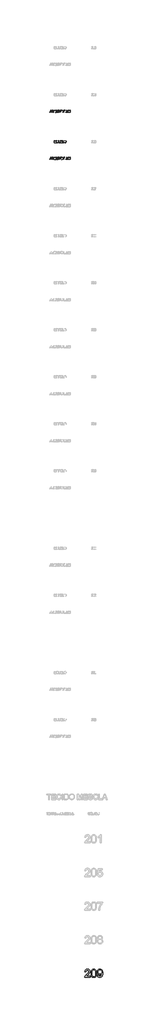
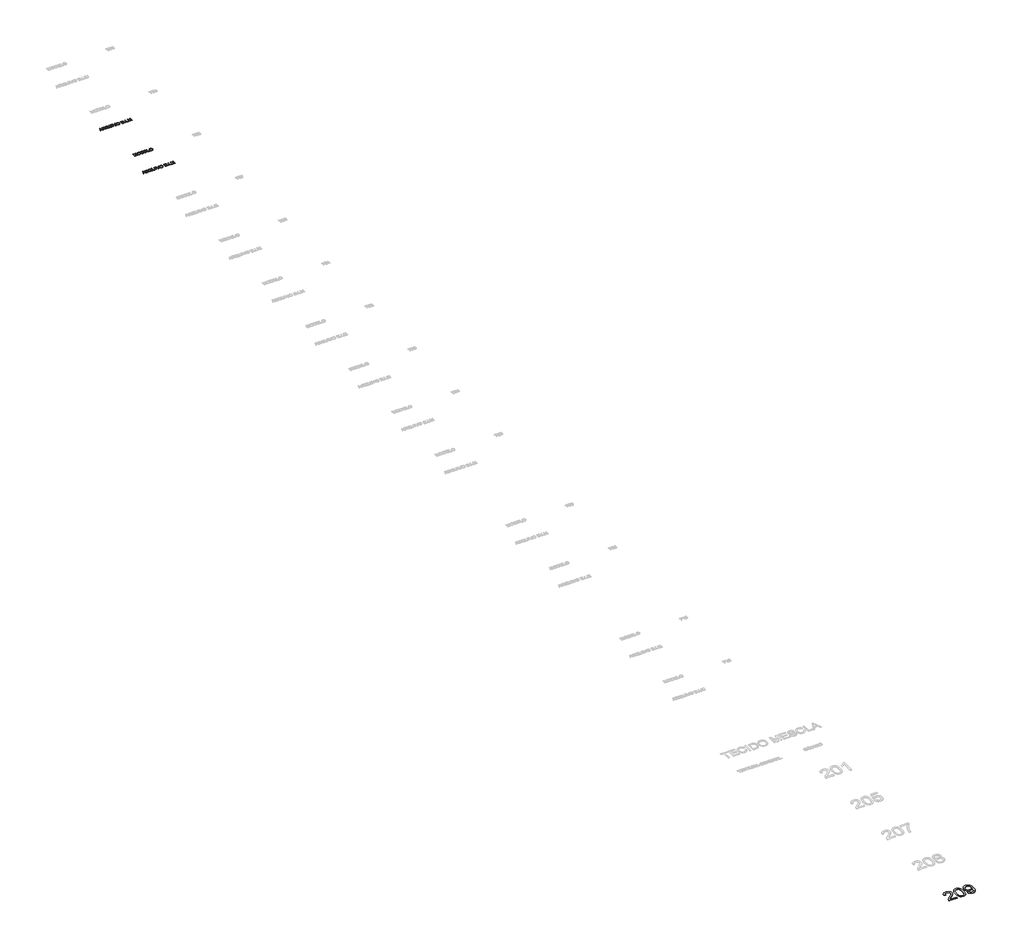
# One storey, part 14 of 19: 4 proxies.
"""IFC4 building model written with IfcOpenShell, lengths in millimetres."""

from ifc_helpers import new_model, si_unit, origin, origin_with_axes, place, context, project, spatial, polyline, outline, extrude, element, save

model = new_model("IFC4")

# Units and contexts
model_context = context("Model", 3, world=origin())
ifc_project = project(units=[si_unit("LENGTHUNIT", "METRE", prefix="MILLI")], contexts=[model_context])

# Site, building, storey
site = spatial("IfcSite", under=ifc_project)
building = spatial("IfcBuilding", under=site)
storey = spatial("IfcBuildingStorey", under=building, Name="Marelli - Linha ACTIVE - Planta Baixa", Elevation=0.0)

# Proxies
placement = place(None, origin())
element("IfcBuildingElementProxy", 1, Name="1200mm Arial", ObjectType="1200mm Arial", at=placement, inside=storey, context=model_context, shape_type="SweptSolid", body=[
    extrude(outline(polyline([(365.0998072, -128838.133975), (365.0998072, -128988.8184403), (-425.9936352, -128988.8184403), (-422.6826972, -128935.7698566), (-409.8068274, -128884.9285648), (-393.3808963, -128844.029284), (-372.6507459, -128803.7370085), (-347.6163761, -128764.0517383), (-318.277787, -128724.9734733), (-282.869145, -128684.9755034), (-239.6246164, -128642.5311182), (-129.6278999, -128550.303102), (-40.1957869, -128473.3605827), (32.975942, -128405.8726307), (89.8872866, -128347.839246), (130.5382471, -128299.2604285), (158.9939194, -128255.7032003), (179.3193997, -128212.7345832), (191.5146878, -128170.3545774), (195.5797839, -128128.5631827), (191.7446141, -128089.2457945), (180.2391047, -128053.1105855), (161.0632557, -128020.1575558), (134.2170671, -127990.3867054), (101.1904609, -127965.7294146), (63.4733594, -127948.1170641), (21.0657624, -127937.5496538), (-26.03233, -127934.0271837), (-75.6504141, -127937.4668804), (-120.0261798, -127947.7859703), (-159.159627, -127964.9844536), (-193.0507558, -127989.0623302), (-220.4671615, -128019.2102597), (-240.1764394, -128054.6189017), (-252.1785895, -128095.2882563), (-256.4736118, -128141.2183234), (-407.158077, -128122.3827652), (-394.1994338, -128044.5941173), (-383.7400888, -128009.3832119), (-370.6273949, -127976.6279187), (-354.8613522, -127946.3282379), (-336.4419605, -127918.4841694), (-315.36922, -127893.0957132), (-291.6431306, -127870.1628693), (-265.5212096, -127849.8143965), (-237.2609746, -127832.1790533), (-206.8624255, -127817.2568399), (-174.3255623, -127805.0477562), (-102.8368936, -127788.7689779), (-22.7949685, -127783.3427185), (57.9643265, -127789.3759832), (95.0123427, -127796.9175641), (129.8392713, -127807.4757774), (162.4451124, -127821.050623), (192.8298659, -127837.642101), (220.9935319, -127857.2502113), (246.9361104, -127879.874954), (270.2161429, -127904.7345798), (290.3921711, -127931.0473395), (307.4641949, -127958.8132331), (321.4322144, -127988.0322606), (332.2962296, -128018.7044219), (340.0562404, -128050.8297172), (344.7122469, -128084.4081463), (346.2642491, -128119.4397093), (344.590386, -128155.6301005), (339.5687968, -128191.5077921), (331.1994814, -128227.072784), (319.4824398, -128262.3250762), (303.8750462, -128297.880871), (283.8346745, -128334.3563708), (230.454997, -128410.0664855), (193.6208122, -128452.0510182), (145.3638915, -128500.4550917), (14.5818422, -128616.5218611), (-158.7641539, -128761.4673672), (-196.3616938, -128799.6903065), (-226.7487466, -128838.133975), (365.0998072, -128838.133975)])), origin_with_axes(), (0.0, 0.0, 1.0), 10.0),
    extrude(outline(polyline([(515.7842725, -128395.792664), (518.5525845, -128294.4319773), (526.8575205, -128202.8385576), (540.6990806, -128121.0124048), (560.0772647, -128048.953519), (584.9092994, -127986.073289), (615.1124112, -127931.7831035), (650.6866001, -127886.0829627), (691.6318662, -127848.9728664), (738.0861651, -127820.2596767), (790.1874527, -127799.7502555), (847.9357289, -127787.4446027), (911.3309937, -127783.3427185), (958.971712, -127785.7707396), (1004.1844093, -127793.0548031), (1046.9690853, -127805.194909), (1087.3257402, -127822.1910572), (1124.2794866, -127843.7581391), (1156.8554373, -127869.6110463), (1185.0535922, -127899.7497788), (1208.8739514, -127934.1743365), (1229.5121313, -127972.7467637), (1248.1637485, -128015.3291046), (1279.5072944, -128112.5235278), (1291.4818534, -128169.6831928), (1300.0351098, -128235.9479371), (1305.1670636, -128311.3177609), (1306.8777149, -128395.792664), (1304.136994, -128496.5095573), (1295.9148314, -128587.6431245), (1282.2112271, -128669.1933658), (1263.0261811, -128741.1602811), (1238.3872844, -128804.0681023), (1208.3221284, -128858.4410612), (1172.8307129, -128904.2791578), (1131.913038, -128941.5823921), (1085.4035567, -128970.4887199), (1033.1367223, -128991.1360968), (975.1125346, -129003.524523), (911.3309937, -129007.6539984), (868.6566822, -129005.8605737), (828.3368156, -129000.4802995), (790.3713937, -128991.5131759), (754.7604165, -128978.9592028), (721.5038842, -128962.8183803), (690.6017966, -128943.0907083), (662.0541537, -128919.7761868), (635.8609557, -128892.8748159), (607.7179831, -128850.2786794), (583.3274068, -128802.0999336), (562.6892268, -128748.3385785), (545.8034433, -128688.9946142), (532.670056, -128624.0680406), (523.2890652, -128553.5588577), (517.6604706, -128477.4670655), (515.7842725, -128395.792664)]), holes=[polyline([(666.4687377, -128395.4983584), (670.8833216, -128526.4919399), (684.1270735, -128632.5247279), (694.0598873, -128676.1808245), (706.1999932, -128713.5967226), (720.547391, -128744.7724225), (737.1020808, -128769.7079239), (774.4788915, -128807.884878), (815.9759805, -128835.1541309), (861.5933479, -128851.5156826), (911.3309937, -128856.9695332), (961.0686394, -128851.4972885), (1006.6860068, -128835.0805545), (1048.1830959, -128807.7193311), (1085.5599066, -128769.4136183), (1102.1145964, -128744.418336), (1116.4619942, -128713.2104465), (1128.6021, -128675.7899498), (1138.5349139, -128632.1568459), (1151.7786657, -128526.2528166), (1156.1932497, -128395.4983584), (1151.9258185, -128267.9720648), (1139.1235251, -128163.8062779), (1129.521805, -128120.4835744), (1117.7863694, -128083.0009976), (1103.9172181, -128051.3585475), (1087.9143514, -128025.5562241), (1051.16294, -127985.5122689), (1009.1876044, -127956.9094438), (961.9883444, -127939.7477487), (909.5651601, -127934.0271837), (860.0850317, -127939.067167), (815.2402165, -127954.187117), (775.0307145, -127979.3870337), (739.4565255, -128014.666917), (722.3500128, -128043.2145599), (707.5243683, -128077.2068562), (694.9795923, -128116.6438061), (684.7156846, -128161.5254095), (671.0304744, -128267.6225769), (666.4687377, -128395.4983584)])]), origin_with_axes(), (0.0, 0.0, 1.0), 10.0),
    extrude(outline(polyline([(1457.5621801, -128687.4495098), (1608.2466453, -128668.6139517), (1619.0991642, -128714.7923391), (1633.998385, -128754.1465155), (1652.9443077, -128786.676481), (1675.9369324, -128812.3822354), (1702.7187417, -128831.8891782), (1733.0322181, -128845.8227087), (1766.8773617, -128854.1828271), (1804.2541724, -128856.9695332), (1836.9312906, -128855.1761085), (1868.1552749, -128849.7958343), (1897.9261254, -128840.8287107), (1926.243842, -128828.2747376), (1952.1059462, -128812.7225262), (1974.5099597, -128794.7606878), (1993.4558825, -128774.3892223), (2008.9437145, -128751.6081298), (2035.0265479, -128694.8807261), (2058.2399018, -128620.6421395), (2074.5738624, -128535.4406694), (2080.018516, -128445.8246154), (2079.1355992, -128416.3940558), (2055.0485255, -128449.9081055), (2026.933144, -128480.1112173), (1994.7894547, -128507.0033912), (1958.6174575, -128530.5846271), (1919.6495572, -128549.7696731), (1879.1181584, -128563.4732774), (1837.0232611, -128571.69544), (1793.3648653, -128574.4361609), (1756.8548766, -128572.7622978), (1721.7842261, -128567.7407086), (1688.152914, -128559.3713932), (1655.9609401, -128547.6543517), (1625.2083046, -128532.5895839), (1595.8950073, -128514.1770901), (1568.0210484, -128492.4168701), (1541.5864278, -128467.3089239), (1517.4786608, -128439.4648554), (1496.5852627, -128409.4962684), (1478.9062336, -128377.4031628), (1464.4415734, -128343.1855387), (1453.1912822, -128306.8433961), (1445.1553598, -128268.376735), (1440.3338064, -128227.7855554), (1438.726622, -128185.0698572), (1440.4119813, -128140.9240178), (1445.4680595, -128098.9854703), (1453.8948565, -128059.2542149), (1465.6923722, -128021.7302513), (1480.8606067, -127986.4135798), (1499.39956, -127953.3042002), (1521.3092321, -127922.4021126), (1546.5896229, -127893.707317), (1574.4083996, -127867.8406142), (1603.9332289, -127845.4228052), (1635.1641111, -127826.4538898), (1668.101046, -127810.9338681), (1702.7440336, -127798.8627401), (1739.093074, -127790.2405059), (1777.1481671, -127785.0671653), (1816.909313, -127783.3427185), (1874.3632836, -127787.2790558), (1929.2972625, -127799.0880679), (1981.7112498, -127818.7697546), (2031.6052454, -127846.324116), (2077.3145833, -127881.162541), (2117.1745975, -127922.6964182), (2151.1852879, -127970.9257478), (2179.3466546, -128025.8505297), (2201.4287714, -128090.634549), (2217.201712, -128168.441591), (2226.6654763, -128259.2716556), (2229.8200644, -128363.1247429), (2226.6746733, -128472.1925574), (2217.2385002, -128569.5433304), (2201.5115449, -128655.1770618), (2179.4938074, -128729.0937517), (2151.2680614, -128793.0960218), (2116.9170801, -128848.9864939), (2076.4408635, -128896.765168), (2029.8394118, -128936.4320442), (1978.0508239, -128967.5916491), (1922.013199, -128989.8485099), (1861.7265371, -129003.2026263), (1797.1908381, -129007.6539984), (1729.518945, -129002.4024829), (1668.3585633, -128986.6479365), (1613.709693, -128960.3903591), (1565.5723339, -128923.6297507), (1525.1604967, -128877.3593928), (1493.688192, -128822.5725666), (1471.1554198, -128759.2692723), (1457.5621801, -128687.4495098)]), holes=[polyline([(2079.1355992, -128181.5381901), (2075.0705031, -128127.5331132), (2062.875215, -128079.4141482), (2042.5497347, -128037.1812951), (2014.0940624, -128000.834554), (1978.9061496, -127971.6063295), (1938.3839478, -127950.7290263), (1892.5274571, -127938.2026443), (1841.3366775, -127934.0271837), (1788.508823, -127938.5245411), (1740.6841636, -127952.0166133), (1697.8626994, -127974.5034002), (1660.0444303, -128005.984902), (1629.1423427, -128044.6217085), (1607.069423, -128088.5744099), (1593.8256711, -128137.8430061), (1589.4110872, -128192.4274971), (1593.5865478, -128241.3833936), (1606.1129298, -128285.5384301), (1626.990233, -128324.8926065), (1656.2184575, -128359.4459229), (1692.5835927, -128387.5796985), (1734.8716281, -128407.6752525), (1783.0825635, -128419.7325849), (1837.2163991, -128423.7516957), (1887.6990059, -128419.7325849), (1933.4911173, -128407.6752525), (1974.5927332, -128387.5796985), (2011.0038537, -128359.4459229), (2040.8114923, -128324.2120248), (2062.1026628, -128282.8161033), (2074.8773651, -128235.2581584), (2079.1355992, -128181.5381901)])]), origin_with_axes(), (0.0, 0.0, 1.0), 10.0),
])
element("IfcBuildingElementProxy", 2, Name="300mm Arial", ObjectType="300mm Arial", at=placement, inside=storey, context=model_context, shape_type="SweptSolid", body=[
    extrude(outline(polyline([(-5609.419598, -7280.5663201), (-5489.1221856, -6979.1973896), (-5457.0428756, -6979.1973896), (-5336.7454632, -7280.5663201), (-5376.550295, -7280.5663201), (-5411.0576262, -7186.3885293), (-5535.1810114, -7186.3885293), (-5569.6147661, -7280.5663201), (-5609.419598, -7280.5663201)]), holes=[polyline([(-5521.3486483, -7148.717413), (-5424.8164128, -7148.717413), (-5451.9661041, -7074.6259792), (-5473.0825306, -7016.8685059), (-5491.8445123, -7068.1512561), (-5521.3486483, -7148.717413)])]), origin_with_axes(), (0.0, 0.0, 1.0), 10.0),
    extrude(outline(polyline([(-5296.4991729, -7280.5663201), (-5296.4991729, -6979.1973896), (-5166.6368286, -6979.1973896), (-5131.7340243, -6981.2299376), (-5106.3409696, -6987.3275817), (-5087.7813229, -6998.5847708), (-5073.3787428, -7016.0959537), (-5064.1357077, -7037.8101885), (-5061.054696, -7061.6765329), (-5066.1590587, -7091.3646099), (-5081.4721467, -7115.9759154), (-5093.0719259, -7126.0052983), (-5107.4538126, -7134.0205273), (-5144.5639089, -7144.0085235), (-5123.1531768, -7160.1217548), (-5092.6189712, -7198.8965171), (-5042.3662906, -7280.5663201), (-5086.144248, -7280.5663201), (-5125.3604687, -7218.0999573), (-5153.6873824, -7176.750021), (-5173.5897983, -7157.2154871), (-5191.5056515, -7150.0417882), (-5213.357842, -7148.717413), (-5258.8280566, -7148.717413), (-5258.8280566, -7280.5663201), (-5296.4991729, -7280.5663201)]), holes=[polyline([(-5258.8280566, -7111.0462967), (-5174.5095033, -7111.0462967), (-5150.293671, -7109.7127245), (-5131.5040981, -7105.7120078), (-5117.3590353, -7098.7774322), (-5107.0767336, -7088.6422832), (-5100.8135426, -7076.3826157), (-5098.7258123, -7063.0744845), (-5102.7081349, -7044.6987789), (-5114.6551027, -7029.8915286), (-5135.2105092, -7020.1242616), (-5165.0181478, -7016.8685059), (-5258.8280566, -7016.8685059), (-5258.8280566, -7111.0462967)])]), origin_with_axes(), (0.0, 0.0, 1.0), 10.0),
    extrude(outline(polyline([(-4768.7356626, -7244.4403081), (-4744.4002686, -7263.036743), (-4722.0146492, -7275.8574305), (-4732.1681923, -7303.4485802), (-4763.2358268, -7289.0460001), (-4794.1930967, -7268.205485), (-4829.0499157, -7281.0077785), (-4867.4016137, -7285.2752096), (-4905.9372527, -7280.3547879), (-4940.7572836, -7265.5935229), (-4969.9211287, -7241.9203165), (-4991.4882107, -7210.2640708), (-5004.814736, -7172.3630282), (-5009.2569111, -7129.9554312), (-5004.823933, -7087.511046), (-4991.5249989, -7049.0581805), (-4970.0406904, -7016.9512794), (-4941.0515892, -6993.5447874), (-4906.360317, -6979.2525719), (-4867.7694957, -6974.4885001), (-4828.8751718, -6979.3629365), (-4794.0091557, -6993.9862458), (-4765.0660397, -7017.3835407), (-4743.9404161, -7048.5799339), (-4731.0277581, -7085.9199564), (-4726.7235388, -7127.7481393), (-4729.3355009, -7162.5313819), (-4737.1713874, -7193.5990164), (-4750.2863806, -7220.9142546), (-4768.7356626, -7244.4403081)]), holes=[polyline([(-4857.0273415, -7194.3347804), (-4825.3527017, -7206.3093393), (-4799.784903, -7222.9559996), (-4784.3016695, -7205.4816049), (-4773.2422171, -7184.1076609), (-4766.6065456, -7158.8341679), (-4764.3946551, -7129.6611256), (-4767.521652, -7096.5057608), (-4776.9026429, -7067.8201623), (-4792.3077015, -7044.3308969), (-4813.5069014, -7026.7645316), (-4839.065503, -7015.8108452), (-4867.5487665, -7012.1596164), (-4889.033075, -7014.0059242), (-4908.6043972, -7019.5448474), (-4926.2627329, -7028.7763863), (-4942.0080823, -7041.7005406), (-4954.9483315, -7058.2897193), (-4964.1913666, -7078.5163313), (-4969.7371877, -7102.3803764), (-4971.5857948, -7129.8818548), (-4969.7578811, -7156.6659634), (-4964.2741401, -7180.1437324), (-4955.1345718, -7200.3151621), (-4942.3391761, -7217.1802523), (-4926.7018921, -7230.4906827), (-4909.0366585, -7239.9981331), (-4889.3434755, -7245.7026032), (-4867.6223429, -7247.6040933), (-4846.7082515, -7245.6727128), (-4827.081747, -7239.8785714), (-4846.3771577, -7229.853787), (-4866.7394261, -7223.1767288), (-4857.0273415, -7194.3347804)])]), origin_with_axes(), (0.0, 0.0, 1.0), 10.0),
    extrude(outline(polyline([(-4472.4435037, -6979.1973896), (-4434.7723874, -6979.1973896), (-4434.7723874, -7153.0584205), (-4437.3291673, -7193.7737604), (-4444.9995069, -7225.1265034), (-4459.3285106, -7249.3147446), (-4481.8612828, -7268.5365788), (-4512.6530058, -7281.0905519), (-4551.7588619, -7285.2752096), (-4590.0093923, -7281.6331779), (-4620.5895832, -7270.7070826), (-4643.5086315, -7252.8740029), (-4658.7757343, -7228.5110178), (-4667.3565818, -7195.8338995), (-4670.2168643, -7153.0584205), (-4670.2168643, -6979.1973896), (-4632.545748, -6979.1973896), (-4632.545748, -7151.7340454), (-4630.6879439, -7185.588386), (-4625.1145317, -7209.1604248), (-4615.0161709, -7225.4851883), (-4599.5835212, -7237.597703), (-4579.4603761, -7245.1024957), (-4555.290529, -7247.6040933), (-4516.9756192, -7242.6560805), (-4502.6328199, -7236.4710644), (-4491.499791, -7227.812042), (-4483.1626653, -7215.6351479), (-4477.2075755, -7198.8965171), (-4472.4435037, -7151.7340454), (-4472.4435037, -6979.1973896)])), origin_with_axes(), (0.0, 0.0, 1.0), 10.0),
    extrude(outline(polyline([(-4364.1390443, -7280.5663201), (-4364.1390443, -6979.1973896), (-4326.467928, -6979.1973896), (-4326.467928, -7280.5663201), (-4364.1390443, -7280.5663201)])), origin_with_axes(), (0.0, 0.0, 1.0), 10.0),
    extrude(outline(polyline([(-4162.0982526, -7280.5663201), (-4282.027783, -6979.1973896), (-4241.7079163, -6979.1973896), (-4161.436065, -7196.3213432), (-4145.1756808, -7245.2496485), (-4129.1360258, -7196.3213432), (-4048.6434453, -6979.1973896), (-4008.3235786, -6979.1973896), (-4123.1763375, -7280.5663201), (-4162.0982526, -7280.5663201)])), origin_with_axes(), (0.0, 0.0, 1.0), 10.0),
    extrude(outline(polyline([(-3987.4278813, -7133.8549804), (-3984.9170866, -7098.5061192), (-3977.3847028, -7067.213157), (-3964.8307297, -7039.9760937), (-3947.2551674, -7016.7949295), (-3925.711078, -6998.2858666), (-3901.2515239, -6985.0651074), (-3873.8765049, -6977.1326519), (-3843.5860211, -6974.4885001), (-3804.0571008, -6979.454907), (-3768.6116705, -6994.3541278), (-3739.1811109, -7018.1376988), (-3717.6968024, -7049.7571563), (-3704.5634152, -7087.68579), (-3700.1856194, -7130.3968896), (-3704.7933414, -7173.6782064), (-3718.6165074, -7212.140269), (-3740.8917622, -7243.8149087), (-3770.8557507, -7266.733957), (-3805.9976783, -7280.6398965), (-3843.8067503, -7285.2752096), (-3883.942676, -7280.1524528), (-3919.5904413, -7264.7841825), (-3948.9474246, -7240.5591531), (-3970.2110039, -7208.8661192), (-3983.1236619, -7172.3998164), (-3987.4278813, -7133.8549804)]), holes=[polyline([(-3949.7567649, -7134.2228624), (-3947.873669, -7159.1974513), (-3942.2243811, -7181.3669401), (-3932.8089013, -7200.7313286), (-3919.6272295, -7217.2906169), (-3903.6036694, -7230.5527628), (-3885.6625243, -7240.0257242), (-3865.8037944, -7245.709501), (-3844.0274795, -7247.6040933), (-3821.8786842, -7245.6911069), (-3801.7854294, -7239.9521478), (-3783.7477154, -7230.3872159), (-3767.7655419, -7216.9963113), (-3754.6804392, -7200.0875351), (-3745.3339373, -7179.9689885), (-3739.7260361, -7156.6406715), (-3737.8567357, -7130.102584), (-3741.0573091, -7096.7540812), (-3750.6590292, -7067.9305269), (-3766.4135756, -7044.358488), (-3788.0726281, -7026.7645316), (-3814.2014468, -7015.8108452), (-3843.3652919, -7012.1596164), (-3864.3851494, -7013.9185522), (-3883.8874937, -7019.1953595), (-3901.8723248, -7027.9900385), (-3918.3396426, -7040.302589), (-3932.0846336, -7056.7262208), (-3941.9024844, -7077.8541437), (-3947.7931948, -7103.6863575), (-3949.7567649, -7134.2228624)])]), origin_with_axes(), (0.0, 0.0, 1.0), 10.0),
    extrude(outline(polyline([(-3530.665596, -7280.5663201), (-3530.665596, -6979.1973896), (-3415.6656844, -6979.1973896), (-3384.0370298, -6981.4138786), (-3359.3429509, -6988.0633457), (-3340.4154222, -6999.3113377), (-3326.0864185, -7015.3234015), (-3317.0641126, -7034.1589597), (-3314.0566773, -7053.8774346), (-3316.585866, -7072.0232141), (-3324.1734321, -7089.0837416), (-3336.874558, -7104.0105535), (-3354.7444259, -7115.7551862), (-3333.3980732, -7126.9020107), (-3317.6251326, -7143.8613707), (-3307.8854568, -7165.5112261), (-3304.6388982, -7190.7295368), (-3306.8553872, -7211.7447958), (-3313.5048543, -7231.2333445), (-3323.4284711, -7247.8064284), (-3335.4674094, -7260.0752929), (-3350.2102804, -7268.9596431), (-3368.2456952, -7275.3791839), (-3416.5486011, -7280.5663201), (-3530.665596, -7280.5663201)]), holes=[polyline([(-3492.9944797, -7101.6285176), (-3424.2005466, -7101.6285176), (-3384.0278328, -7098.3911561), (-3369.9655435, -7092.8085468), (-3359.8579857, -7084.4484284), (-3353.7603416, -7073.4395597), (-3351.7277936, -7059.9106994), (-3353.6223859, -7046.7773121), (-3359.3061627, -7035.3361821), (-3368.5216067, -7026.4058467), (-3381.0112004, -7020.8048433), (-3429.424471, -7016.8685059), (-3492.9944797, -7016.8685059), (-3492.9944797, -7101.6285176)]), polyline([(-3492.9944797, -7242.8952038), (-3415.7392607, -7242.8952038), (-3387.7802291, -7241.4236758), (-3364.1254168, -7233.2199073), (-3348.4536438, -7216.4812765), (-3343.8459218, -7204.6538704), (-3342.3100145, -7191.0974188), (-3344.1126363, -7175.3520694), (-3349.5205016, -7161.814012), (-3358.9658718, -7151.2282076), (-3372.8810083, -7144.3396173), (-3392.5902862, -7140.5596298), (-3419.4180807, -7139.2996339), (-3492.9944797, -7139.2996339), (-3492.9944797, -7242.8952038)])]), origin_with_axes(), (0.0, 0.0, 1.0), 10.0),
    extrude(outline(polyline([(-3248.1322237, -7280.5663201), (-3248.1322237, -7242.8952038), (-3210.4611074, -7242.8952038), (-3210.4611074, -7280.5663201), (-3248.1322237, -7280.5663201)])), origin_with_axes(), (0.0, 0.0, 1.0), 10.0),
    extrude(outline(polyline([(-3130.4099853, -7280.5663201), (-3130.4099853, -6979.1973896), (-3092.738869, -6979.1973896), (-3092.738869, -7280.5663201), (-3130.4099853, -7280.5663201)])), origin_with_axes(), (0.0, 0.0, 1.0), 10.0),
    extrude(outline(polyline([(-3012.6877468, -7280.5663201), (-3012.6877468, -7242.8952038), (-2975.0166305, -7242.8952038), (-2975.0166305, -7280.5663201), (-3012.6877468, -7280.5663201)])), origin_with_axes(), (0.0, 0.0, 1.0), 10.0),
    extrude(outline(polyline([(-2899.6743979, -7280.5663201), (-2899.6743979, -6979.1973896), (-2834.8535904, -6979.1973896), (-2773.196568, -7191.6124536), (-2760.7621565, -7235.9790223), (-2747.2976755, -7187.9336337), (-2686.6707227, -6979.1973896), (-2621.8499152, -6979.1973896), (-2621.8499152, -7280.5663201), (-2659.5210315, -7280.5663201), (-2659.5210315, -7016.8685059), (-2735.2311461, -7280.5663201), (-2786.293167, -7280.5663201), (-2862.0032816, -7016.8685059), (-2862.0032816, -7280.5663201), (-2899.6743979, -7280.5663201)])), origin_with_axes(), (0.0, 0.0, 1.0), 10.0),
])
element("IfcBuildingElementProxy", 3, Name="300mm Arial", ObjectType="300mm Arial", at=placement, inside=storey, context=model_context, shape_type="SweptSolid", body=[
    extrude(outline(polyline([(-4966.8769052, -4780.5663201), (-4966.8769052, -4479.1973896), (-4902.0560977, -4479.1973896), (-4840.3990753, -4691.6124536), (-4827.9646638, -4735.9790223), (-4814.5001828, -4687.9336337), (-4753.87323, -4479.1973896), (-4689.0524225, -4479.1973896), (-4689.0524225, -4780.5663201), (-4726.7235388, -4780.5663201), (-4726.7235388, -4516.8685059), (-4802.4336534, -4780.5663201), (-4853.4956743, -4780.5663201), (-4929.2057889, -4516.8685059), (-4929.2057889, -4780.5663201), (-4966.8769052, -4780.5663201)])), origin_with_axes(), (0.0, 0.0, 1.0), 10.0),
    extrude(outline(polyline([(-4637.2546375, -4633.8549804), (-4634.7438429, -4598.5061192), (-4627.2114591, -4567.213157), (-4614.657486, -4539.9760937), (-4597.0819237, -4516.7949295), (-4575.5378343, -4498.2858666), (-4551.0782802, -4485.0651074), (-4523.7032612, -4477.1326519), (-4493.4127774, -4474.4885001), (-4453.883857, -4479.454907), (-4418.4384268, -4494.3541278), (-4389.0078672, -4518.1376988), (-4367.5235587, -4549.7571563), (-4354.3901714, -4587.68579), (-4350.0123757, -4630.3968896), (-4354.6200977, -4673.6782064), (-4368.4432637, -4712.140269), (-4390.7185185, -4743.8149087), (-4420.682507, -4766.733957), (-4455.8244346, -4780.6398965), (-4493.6335066, -4785.2752096), (-4533.7694323, -4780.1524528), (-4569.4171976, -4764.7841825), (-4598.7741808, -4740.5591531), (-4620.0377602, -4708.8661192), (-4632.9504182, -4672.3998164), (-4637.2546375, -4633.8549804)]), holes=[polyline([(-4599.5835212, -4634.2228624), (-4597.7004253, -4659.1974513), (-4592.0511374, -4681.3669401), (-4582.6356576, -4700.7313286), (-4569.4539858, -4717.2906169), (-4553.4304257, -4730.5527628), (-4535.4892806, -4740.0257242), (-4515.6305507, -4745.709501), (-4493.8542358, -4747.6040933), (-4471.7054404, -4745.6911069), (-4451.6121857, -4739.9521478), (-4433.5744716, -4730.3872159), (-4417.5922982, -4716.9963113), (-4404.5071955, -4700.0875351), (-4395.1606936, -4679.9689885), (-4389.5527924, -4656.6406715), (-4387.683492, -4630.102584), (-4390.8840654, -4596.7540812), (-4400.4857854, -4567.9305269), (-4416.2403319, -4544.358488), (-4437.8993843, -4526.7645316), (-4464.0282031, -4515.8108452), (-4493.1920482, -4512.1596164), (-4514.2119057, -4513.9185522), (-4533.71425, -4519.1953595), (-4551.699081, -4527.9900385), (-4568.1663988, -4540.302589), (-4581.9113899, -4556.7262208), (-4591.7292406, -4577.8541437), (-4597.6199511, -4603.6863575), (-4599.5835212, -4634.2228624)])]), origin_with_axes(), (0.0, 0.0, 1.0), 10.0),
    extrude(outline(polyline([(-4298.2145908, -4780.5663201), (-4298.2145908, -4479.1973896), (-4194.2511389, -4479.1973896), (-4140.4667912, -4483.5383972), (-4116.444097, -4491.9077126), (-4096.173799, -4505.0962821), (-4075.333284, -4528.0521186), (-4060.4892455, -4556.5997614), (-4051.6048953, -4590.1873876), (-4048.6434453, -4628.2631741), (-4050.6484021, -4660.6091985), (-4056.6632727, -4689.0740679), (-4065.8235344, -4713.3082943), (-4077.2646645, -4732.9623899), (-4090.4348399, -4748.477813), (-4104.7822377, -4760.2960221), (-4121.254154, -4769.0608107), (-4140.797885, -4775.4159721), (-4189.2479438, -4780.5663201), (-4298.2145908, -4780.5663201)]), holes=[polyline([(-4260.5434745, -4742.8952038), (-4193.8832569, -4742.8952038), (-4166.3105014, -4741.5340404), (-4145.39641, -4737.4505502), (-4129.6142724, -4730.8838566), (-4117.4373783, -4722.0730828), (-4104.3499764, -4705.7667134), (-4094.5183301, -4684.6594839), (-4088.3655037, -4658.6594239), (-4086.3145616, -4627.6745629), (-4090.3336724, -4586.6189322), (-4102.3910047, -4556.3054558), (-4120.2056904, -4535.4833349), (-4141.4968608, -4522.9017706), (-4163.1651103, -4518.3768221), (-4194.9133265, -4516.8685059), (-4260.5434745, -4516.8685059), (-4260.5434745, -4742.8952038)])]), origin_with_axes(), (0.0, 0.0, 1.0), 10.0),
    extrude(outline(polyline([(-3996.8456603, -4780.5663201), (-3996.8456603, -4479.1973896), (-3780.2367416, -4479.1973896), (-3780.2367416, -4516.8685059), (-3959.174544, -4516.8685059), (-3959.174544, -4606.3374072), (-3789.6545206, -4606.3374072), (-3789.6545206, -4644.0085235), (-3959.174544, -4644.0085235), (-3959.174544, -4742.8952038), (-3775.527852, -4742.8952038), (-3775.527852, -4780.5663201), (-3996.8456603, -4780.5663201)])), origin_with_axes(), (0.0, 0.0, 1.0), 10.0),
    extrude(outline(polyline([(-3719.0211776, -4780.5663201), (-3719.0211776, -4479.1973896), (-3681.3500613, -4479.1973896), (-3681.3500613, -4742.8952038), (-3530.665596, -4742.8952038), (-3530.665596, -4780.5663201), (-3719.0211776, -4780.5663201)])), origin_with_axes(), (0.0, 0.0, 1.0), 10.0),
    extrude(outline(polyline([(-3502.4122588, -4633.8549804), (-3499.9014642, -4598.5061192), (-3492.3690803, -4567.213157), (-3479.8151073, -4539.9760937), (-3462.2395449, -4516.7949295), (-3440.6954556, -4498.2858666), (-3416.2359014, -4485.0651074), (-3388.8608825, -4477.1326519), (-3358.5703987, -4474.4885001), (-3319.0414783, -4479.454907), (-3283.5960481, -4494.3541278), (-3254.1654885, -4518.1376988), (-3232.6811799, -4549.7571563), (-3219.5477927, -4587.68579), (-3215.169997, -4630.3968896), (-3219.777719, -4673.6782064), (-3233.6008849, -4712.140269), (-3255.8761397, -4743.8149087), (-3285.8401283, -4766.733957), (-3320.9820558, -4780.6398965), (-3358.7911279, -4785.2752096), (-3398.9270536, -4780.1524528), (-3434.5748189, -4764.7841825), (-3463.9318021, -4740.5591531), (-3485.1953814, -4708.8661192), (-3498.1080395, -4672.3998164), (-3502.4122588, -4633.8549804)]), holes=[polyline([(-3464.7411425, -4634.2228624), (-3462.8580465, -4659.1974513), (-3457.2087587, -4681.3669401), (-3447.7932788, -4700.7313286), (-3434.6116071, -4717.2906169), (-3418.5880469, -4730.5527628), (-3400.6469019, -4740.0257242), (-3380.7881719, -4745.709501), (-3359.0118571, -4747.6040933), (-3336.8630617, -4745.6911069), (-3316.769807, -4739.9521478), (-3298.7320929, -4730.3872159), (-3282.7499195, -4716.9963113), (-3269.6648168, -4700.0875351), (-3260.3183148, -4679.9689885), (-3254.7104137, -4656.6406715), (-3252.8411133, -4630.102584), (-3256.0416866, -4596.7540812), (-3265.6434067, -4567.9305269), (-3281.3979532, -4544.358488), (-3303.0570056, -4526.7645316), (-3329.1858243, -4515.8108452), (-3358.3496695, -4512.1596164), (-3379.369527, -4513.9185522), (-3398.8718713, -4519.1953595), (-3416.8567023, -4527.9900385), (-3433.3240201, -4540.302589), (-3447.0690112, -4556.7262208), (-3456.8868619, -4577.8541437), (-3462.7775724, -4603.6863575), (-3464.7411425, -4634.2228624)])]), origin_with_axes(), (0.0, 0.0, 1.0), 10.0),
])
element("IfcBuildingElementProxy", 4, Name="300mm Arial", ObjectType="300mm Arial", at=placement, inside=storey, context=model_context, shape_type="SweptSolid", body=[
    extrude(outline(polyline([(-5609.419598, -280.5663201), (-5489.1221856, 20.8026104), (-5457.0428756, 20.8026104), (-5336.7454632, -280.5663201), (-5376.550295, -280.5663201), (-5411.0576262, -186.3885293), (-5535.1810114, -186.3885293), (-5569.6147661, -280.5663201), (-5609.419598, -280.5663201)]), holes=[polyline([(-5521.3486483, -148.717413), (-5424.8164128, -148.717413), (-5451.9661041, -74.6259792), (-5473.0825306, -16.8685059), (-5491.8445123, -68.1512561), (-5521.3486483, -148.717413)])]), origin_with_axes(), (0.0, 0.0, 1.0), 10.0),
    extrude(outline(polyline([(-5296.4991729, -280.5663201), (-5296.4991729, 20.8026104), (-5166.6368286, 20.8026104), (-5131.7340243, 18.7700624), (-5106.3409696, 12.6724183), (-5087.7813229, 1.4152292), (-5073.3787428, -16.0959537), (-5064.1357077, -37.8101885), (-5061.054696, -61.6765329), (-5066.1590587, -91.3646099), (-5081.4721467, -115.9759154), (-5093.0719259, -126.0052983), (-5107.4538126, -134.0205273), (-5144.5639089, -144.0085235), (-5123.1531768, -160.1217548), (-5092.6189712, -198.8965171), (-5042.3662906, -280.5663201), (-5086.144248, -280.5663201), (-5125.3604687, -218.0999573), (-5153.6873824, -176.750021), (-5173.5897983, -157.2154871), (-5191.5056515, -150.0417882), (-5213.357842, -148.717413), (-5258.8280566, -148.717413), (-5258.8280566, -280.5663201), (-5296.4991729, -280.5663201)]), holes=[polyline([(-5258.8280566, -111.0462967), (-5174.5095033, -111.0462967), (-5150.293671, -109.7127245), (-5131.5040981, -105.7120078), (-5117.3590353, -98.7774322), (-5107.0767336, -88.6422832), (-5100.8135426, -76.3826157), (-5098.7258123, -63.0744845), (-5102.7081349, -44.6987789), (-5114.6551027, -29.8915286), (-5135.2105092, -20.1242616), (-5165.0181478, -16.8685059), (-5258.8280566, -16.8685059), (-5258.8280566, -111.0462967)])]), origin_with_axes(), (0.0, 0.0, 1.0), 10.0),
    extrude(outline(polyline([(-4768.7356626, -244.4403081), (-4744.4002686, -263.036743), (-4722.0146492, -275.8574305), (-4732.1681923, -303.4485802), (-4763.2358268, -289.0460001), (-4794.1930967, -268.205485), (-4829.0499157, -281.0077785), (-4867.4016137, -285.2752096), (-4905.9372527, -280.3547879), (-4940.7572836, -265.5935229), (-4969.9211287, -241.9203165), (-4991.4882107, -210.2640708), (-5004.814736, -172.3630282), (-5009.2569111, -129.9554312), (-5004.823933, -87.511046), (-4991.5249989, -49.0581805), (-4970.0406904, -16.9512794), (-4941.0515892, 6.4552126), (-4906.360317, 20.7474281), (-4867.7694957, 25.5114999), (-4828.8751718, 20.6370635), (-4794.0091557, 6.0137542), (-4765.0660397, -17.3835407), (-4743.9404161, -48.5799339), (-4731.0277581, -85.9199564), (-4726.7235388, -127.7481393), (-4729.3355009, -162.5313819), (-4737.1713874, -193.5990164), (-4750.2863806, -220.9142546), (-4768.7356626, -244.4403081)]), holes=[polyline([(-4857.0273415, -194.3347804), (-4825.3527017, -206.3093393), (-4799.784903, -222.9559996), (-4784.3016695, -205.4816049), (-4773.2422171, -184.1076609), (-4766.6065456, -158.8341679), (-4764.3946551, -129.6611256), (-4767.521652, -96.5057608), (-4776.9026429, -67.8201623), (-4792.3077015, -44.3308969), (-4813.5069014, -26.7645316), (-4839.065503, -15.8108452), (-4867.5487665, -12.1596164), (-4889.033075, -14.0059242), (-4908.6043972, -19.5448474), (-4926.2627329, -28.7763863), (-4942.0080823, -41.7005406), (-4954.9483315, -58.2897193), (-4964.1913666, -78.5163313), (-4969.7371877, -102.3803764), (-4971.5857948, -129.8818548), (-4969.7578811, -156.6659634), (-4964.2741401, -180.1437324), (-4955.1345718, -200.3151621), (-4942.3391761, -217.1802523), (-4926.7018921, -230.4906827), (-4909.0366585, -239.9981331), (-4889.3434755, -245.7026032), (-4867.6223429, -247.6040933), (-4846.7082515, -245.6727128), (-4827.081747, -239.8785714), (-4846.3771577, -229.853787), (-4866.7394261, -223.1767288), (-4857.0273415, -194.3347804)])]), origin_with_axes(), (0.0, 0.0, 1.0), 10.0),
    extrude(outline(polyline([(-4472.4435037, 20.8026104), (-4434.7723874, 20.8026104), (-4434.7723874, -153.0584205), (-4437.3291673, -193.7737604), (-4444.9995069, -225.1265034), (-4459.3285106, -249.3147446), (-4481.8612828, -268.5365788), (-4512.6530058, -281.0905519), (-4551.7588619, -285.2752096), (-4590.0093923, -281.6331779), (-4620.5895832, -270.7070826), (-4643.5086315, -252.8740029), (-4658.7757343, -228.5110178), (-4667.3565818, -195.8338995), (-4670.2168643, -153.0584205), (-4670.2168643, 20.8026104), (-4632.545748, 20.8026104), (-4632.545748, -151.7340454), (-4630.6879439, -185.588386), (-4625.1145317, -209.1604248), (-4615.0161709, -225.4851883), (-4599.5835212, -237.597703), (-4579.4603761, -245.1024957), (-4555.290529, -247.6040933), (-4516.9756192, -242.6560805), (-4502.6328199, -236.4710644), (-4491.499791, -227.812042), (-4483.1626653, -215.6351479), (-4477.2075755, -198.8965171), (-4472.4435037, -151.7340454), (-4472.4435037, 20.8026104)])), origin_with_axes(), (0.0, 0.0, 1.0), 10.0),
    extrude(outline(polyline([(-4364.1390443, -280.5663201), (-4364.1390443, 20.8026104), (-4326.467928, 20.8026104), (-4326.467928, -280.5663201), (-4364.1390443, -280.5663201)])), origin_with_axes(), (0.0, 0.0, 1.0), 10.0),
    extrude(outline(polyline([(-4162.0982526, -280.5663201), (-4282.027783, 20.8026104), (-4241.7079163, 20.8026104), (-4161.436065, -196.3213432), (-4145.1756808, -245.2496485), (-4129.1360258, -196.3213432), (-4048.6434453, 20.8026104), (-4008.3235786, 20.8026104), (-4123.1763375, -280.5663201), (-4162.0982526, -280.5663201)])), origin_with_axes(), (0.0, 0.0, 1.0), 10.0),
    extrude(outline(polyline([(-3987.4278813, -133.8549804), (-3984.9170866, -98.5061192), (-3977.3847028, -67.213157), (-3964.8307297, -39.9760937), (-3947.2551674, -16.7949295), (-3925.711078, 1.7141334), (-3901.2515239, 14.9348926), (-3873.8765049, 22.8673481), (-3843.5860211, 25.5114999), (-3804.0571008, 20.545093), (-3768.6116705, 5.6458722), (-3739.1811109, -18.1376988), (-3717.6968024, -49.7571563), (-3704.5634152, -87.68579), (-3700.1856194, -130.3968896), (-3704.7933414, -173.6782064), (-3718.6165074, -212.140269), (-3740.8917622, -243.8149087), (-3770.8557507, -266.733957), (-3805.9976783, -280.6398965), (-3843.8067503, -285.2752096), (-3883.942676, -280.1524528), (-3919.5904413, -264.7841825), (-3948.9474246, -240.5591531), (-3970.2110039, -208.8661192), (-3983.1236619, -172.3998164), (-3987.4278813, -133.8549804)]), holes=[polyline([(-3949.7567649, -134.2228624), (-3947.873669, -159.1974513), (-3942.2243811, -181.3669401), (-3932.8089013, -200.7313286), (-3919.6272295, -217.2906169), (-3903.6036694, -230.5527628), (-3885.6625243, -240.0257242), (-3865.8037944, -245.709501), (-3844.0274795, -247.6040933), (-3821.8786842, -245.6911069), (-3801.7854294, -239.9521478), (-3783.7477154, -230.3872159), (-3767.7655419, -216.9963113), (-3754.6804392, -200.0875351), (-3745.3339373, -179.9689885), (-3739.7260361, -156.6406715), (-3737.8567357, -130.102584), (-3741.0573091, -96.7540812), (-3750.6590292, -67.9305269), (-3766.4135756, -44.358488), (-3788.0726281, -26.7645316), (-3814.2014468, -15.8108452), (-3843.3652919, -12.1596164), (-3864.3851494, -13.9185522), (-3883.8874937, -19.1953595), (-3901.8723248, -27.9900385), (-3918.3396426, -40.302589), (-3932.0846336, -56.7262208), (-3941.9024844, -77.8541437), (-3947.7931948, -103.6863575), (-3949.7567649, -134.2228624)])]), origin_with_axes(), (0.0, 0.0, 1.0), 10.0),
    extrude(outline(polyline([(-3530.665596, -280.5663201), (-3530.665596, 20.8026104), (-3415.6656844, 20.8026104), (-3384.0370298, 18.5861214), (-3359.3429509, 11.9366543), (-3340.4154222, 0.6886623), (-3326.0864185, -15.3234015), (-3317.0641126, -34.1589597), (-3314.0566773, -53.8774346), (-3316.585866, -72.0232141), (-3324.1734321, -89.0837416), (-3336.874558, -104.0105535), (-3354.7444259, -115.7551862), (-3333.3980732, -126.9020107), (-3317.6251326, -143.8613707), (-3307.8854568, -165.5112261), (-3304.6388982, -190.7295368), (-3306.8553872, -211.7447958), (-3313.5048543, -231.2333445), (-3323.4284711, -247.8064284), (-3335.4674094, -260.0752929), (-3350.2102804, -268.9596431), (-3368.2456952, -275.3791839), (-3416.5486011, -280.5663201), (-3530.665596, -280.5663201)]), holes=[polyline([(-3492.9944797, -101.6285176), (-3424.2005466, -101.6285176), (-3384.0278328, -98.3911561), (-3369.9655435, -92.8085468), (-3359.8579857, -84.4484284), (-3353.7603416, -73.4395597), (-3351.7277936, -59.9106994), (-3353.6223859, -46.7773121), (-3359.3061627, -35.3361821), (-3368.5216067, -26.4058467), (-3381.0112004, -20.8048433), (-3429.424471, -16.8685059), (-3492.9944797, -16.8685059), (-3492.9944797, -101.6285176)]), polyline([(-3492.9944797, -242.8952038), (-3415.7392607, -242.8952038), (-3387.7802291, -241.4236758), (-3364.1254168, -233.2199073), (-3348.4536438, -216.4812765), (-3343.8459218, -204.6538704), (-3342.3100145, -191.0974188), (-3344.1126363, -175.3520694), (-3349.5205016, -161.814012), (-3358.9658718, -151.2282076), (-3372.8810083, -144.3396173), (-3392.5902862, -140.5596298), (-3419.4180807, -139.2996339), (-3492.9944797, -139.2996339), (-3492.9944797, -242.8952038)])]), origin_with_axes(), (0.0, 0.0, 1.0), 10.0),
    extrude(outline(polyline([(-3248.1322237, -280.5663201), (-3248.1322237, -242.8952038), (-3210.4611074, -242.8952038), (-3210.4611074, -280.5663201), (-3248.1322237, -280.5663201)])), origin_with_axes(), (0.0, 0.0, 1.0), 10.0),
    extrude(outline(polyline([(-3130.4099853, -280.5663201), (-3130.4099853, 20.8026104), (-3092.738869, 20.8026104), (-3092.738869, -280.5663201), (-3130.4099853, -280.5663201)])), origin_with_axes(), (0.0, 0.0, 1.0), 10.0),
    extrude(outline(polyline([(-3012.6877468, -280.5663201), (-3012.6877468, -242.8952038), (-2975.0166305, -242.8952038), (-2975.0166305, -280.5663201), (-3012.6877468, -280.5663201)])), origin_with_axes(), (0.0, 0.0, 1.0), 10.0),
    extrude(outline(polyline([(-2899.6743979, -280.5663201), (-2899.6743979, 20.8026104), (-2834.8535904, 20.8026104), (-2773.196568, -191.6124536), (-2760.7621565, -235.9790223), (-2747.2976755, -187.9336337), (-2686.6707227, 20.8026104), (-2621.8499152, 20.8026104), (-2621.8499152, -280.5663201), (-2659.5210315, -280.5663201), (-2659.5210315, -16.8685059), (-2735.2311461, -280.5663201), (-2786.293167, -280.5663201), (-2862.0032816, -16.8685059), (-2862.0032816, -280.5663201), (-2899.6743979, -280.5663201)])), origin_with_axes(), (0.0, 0.0, 1.0), 10.0),
])

save(model, "model.ifc")
